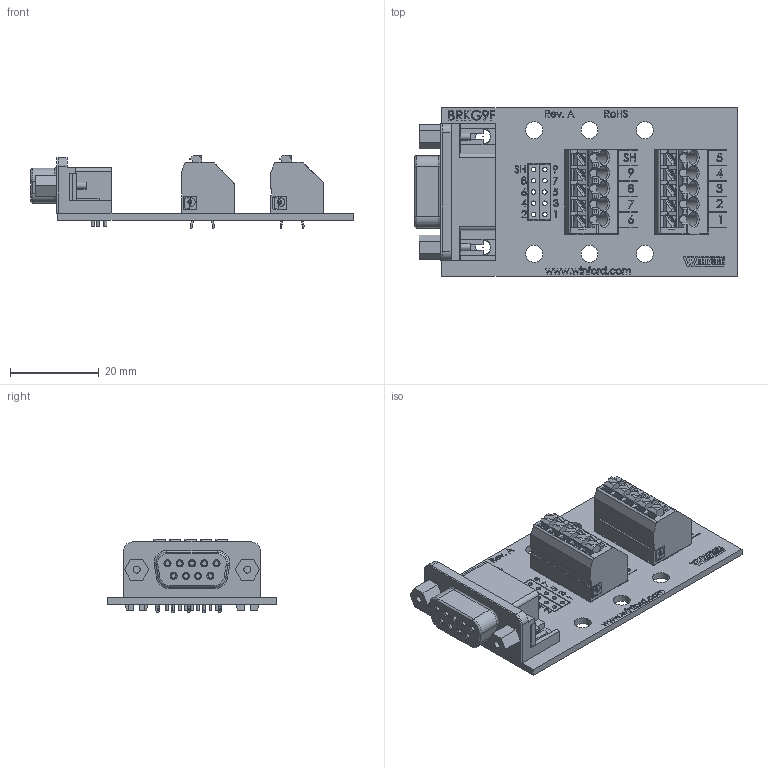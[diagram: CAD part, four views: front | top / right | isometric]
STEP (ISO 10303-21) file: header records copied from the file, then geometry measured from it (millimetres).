
FILE_DESCRIPTION (( 'STEP AP214' ), '1' );
FILE_NAME ('brkg9f-r-n_rev_a.step', '2017-05-12T02:08:40', ( '' ), ( '' ), 'SwSTEP 2.0', 'SolidWorks 2017', '' );
FILE_SCHEMA (( 'AUTOMOTIVE_DESIGN' ));
Length unit declared in the file: inch
Products named in the file (4): brkg9f-r-n_rev_a; Spring Terminal; BRKG9F Board; Right Angle Female Connector
Assembly tree (4 placements, depth 2):
  brkg9f-r-n_rev_a
    BRKG9F Board
    Right Angle Female Connector
    Spring Terminal  x2
Bounding box: 72.8 x 38.1 x 16.6 mm (x, y, z)
Volume: 12003.2 mm3; surface area: 12727.1 mm2
Topology: 19 solids, 19 shells, 2126 faces, 5669 edges, 3740 vertices
Faces by surface type: plane 1429, cylinder 310, bspline 310, cone 69, torus 8
Full cylindrical faces by diameter (mm): 0.025 x2, 0.457 x2, 0.635 x9, 1 x10, 1.016 x18, 1.04 x8, 1.041 x10, 1.092 x9, 1.14 x8, 1.38 x2, 1.47 x2, 1.587 x2, 1.588 x2, 3 x10, 3.302 x2, 3.81 x6
Entity records: 85505 total; most frequent: CARTESIAN_POINT 27259, ORIENTED_EDGE 8700, DIRECTION 6805, EDGE_CURVE 4350, VECTOR 3213, LINE 3213, VERTEX_POINT 2938, EDGE_LOOP 2004
